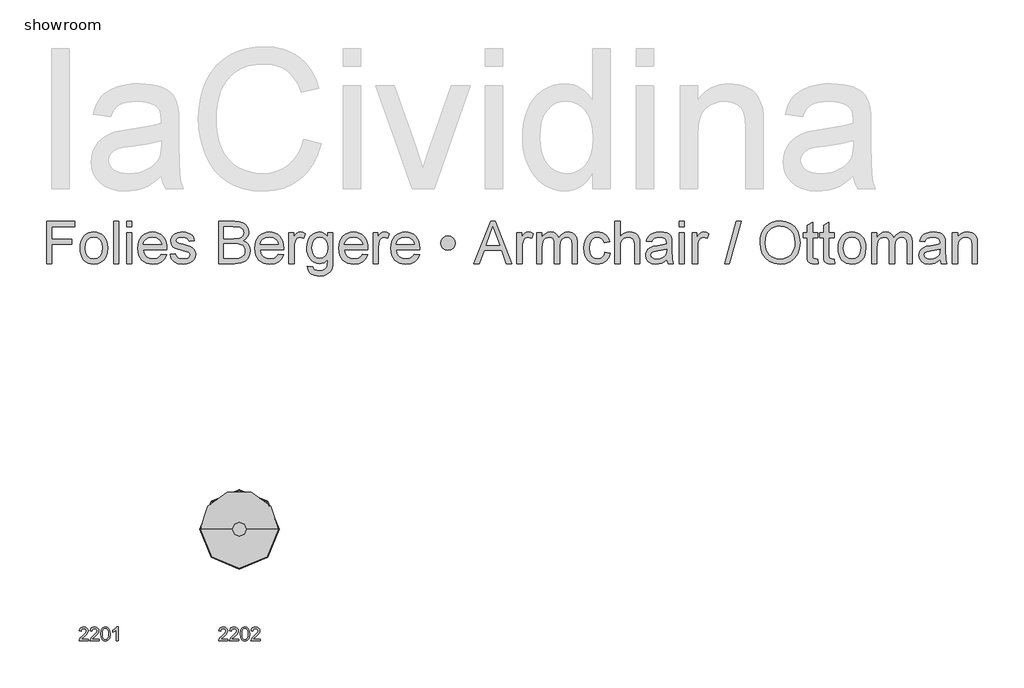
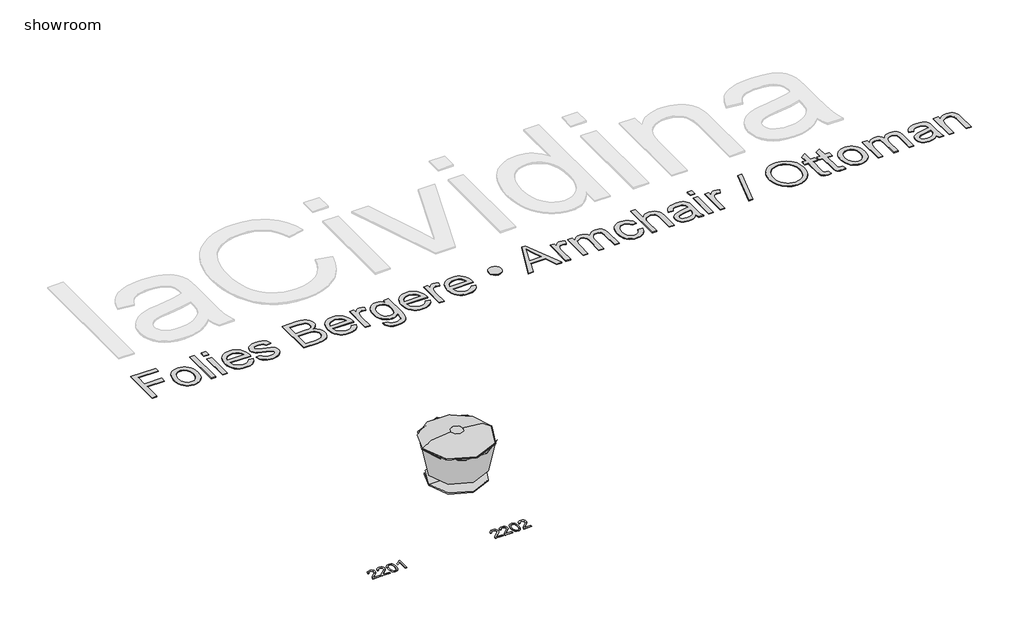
# One storey, part 1 of 2: 3 proxies, 1 furniture element.
"""IFC4 building model written with IfcOpenShell, lengths in millimetres."""

from ifc_helpers import new_model, si_unit, origin, origin_with_axes, place, context, project, spatial, polyline, outline, extrude, transform, mapped, element, save
from components import furniture_13e24988

model = new_model("IFC4")

# Units and contexts
model_context = context("Model", 3, world=origin())
ifc_project = project(units=[si_unit("LENGTHUNIT", "METRE", prefix="MILLI")], contexts=[model_context])

# Site, building, storey
site = spatial("IfcSite", under=ifc_project)
building = spatial("IfcBuilding", under=site)
storey = spatial("IfcBuildingStorey", under=building, Name="showroom", Elevation=0.0)

# Proxies
placement = place(None, origin())
element("IfcBuildingElementProxy", 1, Name="100mm Arial", ObjectType="100mm Arial", at=placement, inside=storey, context=model_context, shape_type="SweptSolid", body=[
    extrude(outline(polyline([(-1690.8450326, 1467.6591194), (-1690.8450326, 1455.1020807), (-1756.7694861, 1455.1020807), (-1755.4205855, 1463.7595703), (-1747.7931654, 1477.0891613), (-1732.0723415, 1491.6450255), (-1710.3918292, 1512.5652483), (-1704.9717012, 1526.7900188), (-1710.0852609, 1538.3047252), (-1723.4393773, 1543.0013521), (-1737.3575795, 1538.4150898), (-1742.6428175, 1525.7354237), (-1755.1998563, 1527.3050536), (-1752.1556327, 1539.4512908), (-1745.5736107, 1548.3233782), (-1735.7971467, 1553.7496377), (-1723.1695972, 1555.5583908), (-1710.4500772, 1553.5473026), (-1700.6920073, 1547.5140379), (-1694.4839986, 1538.500929), (-1692.4146624, 1527.5503083), (-1694.6464799, 1515.6431943), (-1702.0654334, 1503.3314102), (-1720.054863, 1486.1267956), (-1734.5003627, 1474.0480034), (-1740.1657454, 1467.6591194), (-1690.8450326, 1467.6591194)])), origin_with_axes(), (0.0, 0.0, 1.0), 2.0),
    extrude(outline(polyline([(-1613.9331701, 1467.6591194), (-1613.9331701, 1455.1020807), (-1679.8576236, 1455.1020807), (-1678.508723, 1463.7595703), (-1670.881303, 1477.0891613), (-1655.160479, 1491.6450255), (-1633.4799668, 1512.5652483), (-1628.0598387, 1526.7900188), (-1633.1733985, 1538.3047252), (-1646.5275149, 1543.0013521), (-1660.445717, 1538.4150898), (-1665.730955, 1525.7354237), (-1678.2879938, 1527.3050536), (-1675.2437703, 1539.4512908), (-1668.6617483, 1548.3233782), (-1658.8852842, 1553.7496377), (-1646.2577348, 1555.5583908), (-1633.5382148, 1553.5473026), (-1623.7801448, 1547.5140379), (-1617.5721362, 1538.500929), (-1615.5028, 1527.5503083), (-1617.7346174, 1515.6431943), (-1625.153571, 1503.3314102), (-1643.1430005, 1486.1267956), (-1657.5885002, 1474.0480034), (-1663.2538829, 1467.6591194), (-1613.9331701, 1467.6591194)])), origin_with_axes(), (0.0, 0.0, 1.0), 2.0),
    extrude(outline(polyline([(-1601.3761313, 1504.5208954), (-1597.6850487, 1533.4241574), (-1586.7221652, 1550.0892118), (-1568.4139046, 1555.5583908), (-1553.7476757, 1552.3210293), (-1543.6186581, 1542.9890893), (-1537.7325462, 1528.1266567), (-1535.4516778, 1504.5208954), (-1539.1059723, 1475.7402606), (-1550.0320675, 1459.038418), (-1558.2634272, 1454.9089426), (-1568.4139046, 1453.5324508), (-1581.4614527, 1455.9236838), (-1591.3697411, 1463.0973827), (-1598.8745338, 1480.0873995), (-1601.3761313, 1504.5208954)]), holes=[polyline([(-1588.8190926, 1504.5454208), (-1587.3475646, 1484.7932234), (-1582.9329806, 1473.3612904), (-1576.3601557, 1467.9074398), (-1568.4139046, 1466.0894896), (-1560.4676535, 1467.9135712), (-1553.8948285, 1473.3858158), (-1549.4802446, 1484.8238802), (-1548.0087166, 1504.5454208), (-1549.4311936, 1523.8530942), (-1553.6986248, 1535.373932), (-1560.259187, 1541.094497), (-1568.5610574, 1543.0013521), (-1576.4214693, 1541.3213576), (-1582.7367769, 1536.2813743), (-1587.2985137, 1524.0431666), (-1588.8190926, 1504.5454208)])]), origin_with_axes(), (0.0, 0.0, 1.0), 2.0),
    extrude(outline(polyline([(-1477.3753735, 1455.1020807), (-1489.9324123, 1455.1020807), (-1489.9324123, 1533.3873692), (-1501.8272634, 1524.9138206), (-1515.0464898, 1518.5739876), (-1515.0464898, 1530.4443133), (-1496.6401273, 1542.1920117), (-1485.4687774, 1555.5583908), (-1477.3753735, 1555.5583908), (-1477.3753735, 1455.1020807)])), origin_with_axes(), (0.0, 0.0, 1.0), 2.0),
])
element("IfcBuildingElementProxy", 2, Name="100mm Arial", ObjectType="100mm Arial", at=placement, inside=storey, context=model_context, shape_type="SweptSolid", body=[
    extrude(outline(polyline([(-690.8450326, 1467.6591194), (-690.8450326, 1455.1020807), (-756.7694861, 1455.1020807), (-755.4205855, 1463.7595703), (-747.7931654, 1477.0891613), (-732.0723415, 1491.6450255), (-710.3918292, 1512.5652483), (-704.9717012, 1526.7900188), (-710.0852609, 1538.3047252), (-723.4393773, 1543.0013521), (-737.3575795, 1538.4150898), (-742.6428175, 1525.7354237), (-755.1998563, 1527.3050536), (-752.1556327, 1539.4512908), (-745.5736107, 1548.3233782), (-735.7971467, 1553.7496377), (-723.1695972, 1555.5583908), (-710.4500772, 1553.5473026), (-700.6920073, 1547.5140379), (-694.4839986, 1538.500929), (-692.4146624, 1527.5503083), (-694.6464799, 1515.6431943), (-702.0654334, 1503.3314102), (-720.054863, 1486.1267956), (-734.5003627, 1474.0480034), (-740.1657454, 1467.6591194), (-690.8450326, 1467.6591194)])), origin_with_axes(), (0.0, 0.0, 1.0), 2.0),
    extrude(outline(polyline([(-613.9331701, 1467.6591194), (-613.9331701, 1455.1020807), (-679.8576236, 1455.1020807), (-678.508723, 1463.7595703), (-670.881303, 1477.0891613), (-655.160479, 1491.6450255), (-633.4799668, 1512.5652483), (-628.0598387, 1526.7900188), (-633.1733985, 1538.3047252), (-646.5275149, 1543.0013521), (-660.445717, 1538.4150898), (-665.730955, 1525.7354237), (-678.2879938, 1527.3050536), (-675.2437703, 1539.4512908), (-668.6617483, 1548.3233782), (-658.8852842, 1553.7496377), (-646.2577348, 1555.5583908), (-633.5382148, 1553.5473026), (-623.7801448, 1547.5140379), (-617.5721362, 1538.500929), (-615.5028, 1527.5503083), (-617.7346174, 1515.6431943), (-625.153571, 1503.3314102), (-643.1430005, 1486.1267956), (-657.5885002, 1474.0480034), (-663.2538829, 1467.6591194), (-613.9331701, 1467.6591194)])), origin_with_axes(), (0.0, 0.0, 1.0), 2.0),
    extrude(outline(polyline([(-601.3761313, 1504.5208954), (-597.6850487, 1533.4241574), (-586.7221652, 1550.0892118), (-568.4139046, 1555.5583908), (-553.7476757, 1552.3210293), (-543.6186581, 1542.9890893), (-537.7325462, 1528.1266567), (-535.4516778, 1504.5208954), (-539.1059723, 1475.7402606), (-550.0320675, 1459.038418), (-558.2634272, 1454.9089426), (-568.4139046, 1453.5324508), (-581.4614527, 1455.9236838), (-591.3697411, 1463.0973827), (-598.8745338, 1480.0873995), (-601.3761313, 1504.5208954)]), holes=[polyline([(-588.8190926, 1504.5454208), (-587.3475646, 1484.7932234), (-582.9329806, 1473.3612904), (-576.3601557, 1467.9074398), (-568.4139046, 1466.0894896), (-560.4676535, 1467.9135712), (-553.8948285, 1473.3858158), (-549.4802446, 1484.8238802), (-548.0087166, 1504.5454208), (-549.4311936, 1523.8530942), (-553.6986248, 1535.373932), (-560.259187, 1541.094497), (-568.5610574, 1543.0013521), (-576.4214693, 1541.3213576), (-582.7367769, 1536.2813743), (-587.2985137, 1524.0431666), (-588.8190926, 1504.5454208)])]), origin_with_axes(), (0.0, 0.0, 1.0), 2.0),
    extrude(outline(polyline([(-460.1094452, 1467.6591194), (-460.1094452, 1455.1020807), (-526.0338987, 1455.1020807), (-524.6849981, 1463.7595703), (-517.057578, 1477.0891613), (-501.3367541, 1491.6450255), (-479.6562419, 1512.5652483), (-474.2361138, 1526.7900188), (-479.3496735, 1538.3047252), (-492.70379, 1543.0013521), (-506.6219921, 1538.4150898), (-511.9072301, 1525.7354237), (-524.4642689, 1527.3050536), (-521.4200454, 1539.4512908), (-514.8380233, 1548.3233782), (-505.0615593, 1553.7496377), (-492.4340098, 1555.5583908), (-479.7144899, 1553.5473026), (-469.9564199, 1547.5140379), (-463.7484113, 1538.500929), (-461.679075, 1527.5503083), (-463.9108925, 1515.6431943), (-471.329846, 1503.3314102), (-489.3192756, 1486.1267956), (-503.7647753, 1474.0480034), (-509.430158, 1467.6591194), (-460.1094452, 1467.6591194)])), origin_with_axes(), (0.0, 0.0, 1.0), 2.0),
])
element("IfcBuildingElementProxy", 3, Name="300mm Arial", ObjectType="300mm Arial", at=placement, inside=storey, context=model_context, shape_type="SweptSolid", body=[
    extrude(outline(polyline([(-1990.3620976, 4160.1020807), (-1990.3620976, 4461.4710111), (-1787.8798475, 4461.4710111), (-1787.8798475, 4423.7998948), (-1952.6909813, 4423.7998948), (-1952.6909813, 4334.3309936), (-1811.4242952, 4334.3309936), (-1811.4242952, 4296.6598773), (-1952.6909813, 4296.6598773), (-1952.6909813, 4160.1020807), (-1990.3620976, 4160.1020807)])), origin_with_axes(), (0.0, 0.0, 1.0), 5.0),
    extrude(outline(polyline([(-1750.2087312, 4270.7609848), (-1748.1715846, 4299.4235908), (-1742.060145, 4324.1222682), (-1731.8744122, 4344.8570172), (-1717.6143864, 4361.6278376), (-1703.2577915, 4372.3469993), (-1687.4112746, 4380.0035433), (-1670.0748356, 4384.5974697), (-1651.2484745, 4386.1287785), (-1630.465441, 4384.2640766), (-1611.6735688, 4378.6699711), (-1594.872858, 4369.3464617), (-1580.0633084, 4356.2935487), (-1567.9760856, 4339.9526903), (-1559.342355, 4320.765345), (-1554.1621167, 4298.7315128), (-1552.4353706, 4273.8511936), (-1555.4887911, 4235.7938012), (-1564.6490528, 4206.8230941), (-1579.6494412, 4185.1272534), (-1600.2232417, 4168.8944604), (-1624.6598033, 4158.7685084), (-1651.2484745, 4155.3931911), (-1672.3350106, 4157.2509952), (-1691.3016267, 4162.8244074), (-1708.1483228, 4172.1134278), (-1722.8750989, 4185.1180563), (-1734.833563, 4201.6175638), (-1743.3753231, 4221.3912211), (-1748.5003792, 4244.4390281), (-1750.2087312, 4270.7609848)]), holes=[polyline([(-1712.5376149, 4270.8345612), (-1708.1782132, 4236.7410973), (-1695.1000083, 4212.4516886), (-1675.4183216, 4197.9111527), (-1651.2484745, 4193.0643074), (-1627.188992, 4197.9387439), (-1607.5440935, 4212.5620532), (-1594.4658885, 4237.1733587), (-1590.1064869, 4272.0117836), (-1594.4934797, 4305.1119661), (-1607.6544581, 4329.0702811), (-1627.3269477, 4343.6108169), (-1651.2484745, 4348.4576622), (-1675.4183216, 4343.629211), (-1695.1000083, 4329.1438575), (-1708.1782132, 4304.909631), (-1712.5376149, 4270.8345612)])]), origin_with_axes(), (0.0, 0.0, 1.0), 5.0),
    extrude(outline(polyline([(-1510.0553647, 4160.1020807), (-1510.0553647, 4461.4710111), (-1472.3842484, 4461.4710111), (-1472.3842484, 4160.1020807), (-1510.0553647, 4160.1020807)])), origin_with_axes(), (0.0, 0.0, 1.0), 5.0),
    extrude(outline(polyline([(-1415.877574, 4423.7998948), (-1415.877574, 4461.4710111), (-1378.2064577, 4461.4710111), (-1378.2064577, 4423.7998948), (-1415.877574, 4423.7998948)])), origin_with_axes(), (0.0, 0.0, 1.0), 5.0),
    extrude(outline(polyline([(-1415.877574, 4160.1020807), (-1415.877574, 4381.419889), (-1378.2064577, 4381.419889), (-1378.2064577, 4160.1020807), (-1415.877574, 4160.1020807)])), origin_with_axes(), (0.0, 0.0, 1.0), 5.0),
    extrude(outline(polyline([(-1166.7478868, 4226.0265342), (-1129.8125345, 4221.3176447), (-1143.1206657, 4193.4873717), (-1164.3566539, 4172.6836449), (-1193.0422524, 4159.7158046), (-1228.6992148, 4155.3931911), (-1252.0735171, 4157.257893), (-1272.9002365, 4162.8519986), (-1291.1793732, 4172.1755079), (-1306.910927, 4185.2284209), (-1319.5614691, 4201.6474542), (-1328.5975706, 4221.0693243), (-1334.0192315, 4243.4940312), (-1335.8264518, 4268.9215748), (-1334.0008374, 4295.2113419), (-1328.5239942, 4318.3833091), (-1319.3959222, 4338.4374764), (-1306.6166214, 4355.3738437), (-1290.9264543, 4368.8291277), (-1273.0657834, 4378.4400448), (-1253.0346088, 4384.2065951), (-1230.8329304, 4386.1287785), (-1209.3463226, 4384.2111936), (-1189.9152555, 4378.4584389), (-1172.539729, 4368.8705144), (-1157.2197432, 4355.4474201), (-1144.7140546, 4338.547841), (-1135.7814199, 4318.5304619), (-1130.4218391, 4295.3952829), (-1128.6353121, 4269.142304), (-1128.8560413, 4258.988761), (-1298.1553355, 4258.988761), (-1291.6346271, 4230.790606), (-1276.487086, 4210.0604556), (-1254.6256984, 4197.3133445), (-1227.9634508, 4193.0643074), (-1207.9138821, 4195.0324761), (-1191.0280985, 4200.9369821), (-1177.3061001, 4211.1457075), (-1166.7478868, 4226.0265342)]), holes=[polyline([(-1298.1553355, 4296.6598773), (-1166.3064284, 4296.6598773), (-1171.4015941, 4316.5622932), (-1181.3895902, 4330.7993264), (-1203.3521454, 4344.0430783), (-1230.9800832, 4348.4576622), (-1256.3731379, 4344.9351921), (-1277.3700028, 4334.3677818), (-1291.9657209, 4317.8958655), (-1298.1553355, 4296.6598773)])]), origin_with_axes(), (0.0, 0.0, 1.0), 5.0),
    extrude(outline(polyline([(-1105.0908644, 4226.0265342), (-1067.4197481, 4230.7354237), (-1061.4784539, 4214.6221924), (-1049.9821416, 4202.7763921), (-1032.8572347, 4195.4923286), (-1010.0301569, 4193.0643074), (-987.4789906, 4195.2899935), (-971.6232766, 4201.9670517), (-962.2422857, 4211.6423482), (-959.1152888, 4222.862749), (-962.2606798, 4232.4644691), (-971.696853, 4239.7853208), (-1010.4716153, 4250.5274751), (-1067.1990189, 4268.958363), (-1081.5556138, 4278.2197923), (-1091.9574772, 4290.4794598), (-1098.2758505, 4304.9556163), (-1100.3819749, 4320.8665126), (-1098.6897177, 4335.4622307), (-1093.6129462, 4348.9359088), (-1085.6115128, 4360.7541179), (-1075.14527, 4370.3834291), (-1051.1961521, 4381.5302536), (-1018.7857484, 4386.1287785), (-994.2664134, 4384.2801715), (-972.9476518, 4378.7343504), (-955.8043508, 4370.0339412), (-943.8113978, 4358.7215699), (-935.8651467, 4343.9603048), (-930.8619515, 4324.9132145), (-968.5330678, 4320.204325), (-973.2879426, 4332.0593223), (-982.6965246, 4340.9896577), (-996.8507844, 4346.5906611), (-1015.8426924, 4348.4576622), (-1037.4741537, 4346.6734345), (-1051.8951279, 4341.3207515), (-1060.0069259, 4333.5952296), (-1062.7108586, 4324.6924853), (-1058.2226983, 4313.7296019), (-1044.169606, 4305.4154688), (-1011.7224141, 4297.3956413), (-956.4297502, 4279.6637291), (-941.824835, 4271.1840491), (-930.7515869, 4259.5773722), (-923.7710261, 4244.8069101), (-921.4441724, 4226.8358746), (-924.1756963, 4208.2578338), (-932.3702677, 4190.7834391), (-945.7151871, 4175.7830507), (-963.8977547, 4164.6270292), (-985.8603098, 4157.7016507), (-1010.5451917, 4155.3931911), (-1048.5290077, 4159.8445633), (-1076.248916, 4173.1986797), (-1094.7533804, 4195.3083876), (-1105.0908644, 4226.0265342)])), origin_with_axes(), (0.0, 0.0, 1.0), 5.0),
    extrude(outline(polyline([(-756.6330386, 4160.1020807), (-756.6330386, 4461.4710111), (-641.6331269, 4461.4710111), (-610.0044724, 4459.2545221), (-585.3103935, 4452.605055), (-566.3828648, 4441.357063), (-552.0538611, 4425.3449992), (-543.0315552, 4406.509441), (-540.0241198, 4386.7909661), (-542.5533086, 4368.6451867), (-550.1408747, 4351.5846592), (-562.8420006, 4336.6578472), (-580.7118685, 4324.9132145), (-559.3655157, 4313.7663901), (-543.5925752, 4296.8070301), (-533.8528994, 4275.1571747), (-530.6063408, 4249.9388639), (-532.8228298, 4228.9236049), (-539.4722969, 4209.4350562), (-549.3959137, 4192.8619723), (-561.434852, 4180.5931078), (-576.1777229, 4171.7087576), (-594.2131377, 4165.2892168), (-642.5160437, 4160.1020807), (-756.6330386, 4160.1020807)]), holes=[polyline([(-718.9619223, 4197.773197), (-641.7067033, 4197.773197), (-613.7476717, 4199.244725), (-590.0928594, 4207.4484935), (-574.4210864, 4224.1871242), (-569.8133644, 4236.0145304), (-568.2774571, 4249.5709819), (-570.0800789, 4265.3163313), (-575.4879442, 4278.8543887), (-584.9333144, 4289.4401931), (-598.8484509, 4296.3287835), (-618.5577288, 4300.108771), (-645.3855233, 4301.3687668), (-718.9619223, 4301.3687668), (-718.9619223, 4197.773197)]), polyline([(-718.9619223, 4339.0398831), (-650.1679892, 4339.0398831), (-609.9952753, 4342.2772447), (-595.9329861, 4347.859854), (-585.8254282, 4356.2199723), (-579.7277842, 4367.228841), (-577.6952362, 4380.7577014), (-579.5898284, 4393.8910886), (-585.2736053, 4405.3322187), (-594.4890492, 4414.2625541), (-606.978643, 4419.8635575), (-655.3919135, 4423.7998948), (-718.9619223, 4423.7998948), (-718.9619223, 4339.0398831)])]), origin_with_axes(), (0.0, 0.0, 1.0), 5.0),
    extrude(outline(polyline([(-328.565549, 4226.0265342), (-291.6301967, 4221.3176447), (-304.9383279, 4193.4873717), (-326.1743161, 4172.6836449), (-354.8599146, 4159.7158046), (-390.516877, 4155.3931911), (-413.8911793, 4157.257893), (-434.7178987, 4162.8519986), (-452.9970354, 4172.1755079), (-468.7285892, 4185.2284209), (-481.3791313, 4201.6474542), (-490.4152328, 4221.0693243), (-495.8368937, 4243.4940312), (-497.644114, 4268.9215748), (-495.8184996, 4295.2113419), (-490.3416564, 4318.3833091), (-481.2135844, 4338.4374764), (-468.4342836, 4355.3738437), (-452.7441165, 4368.8291277), (-434.8834456, 4378.4400448), (-414.852271, 4384.2065951), (-392.6505926, 4386.1287785), (-371.1639848, 4384.2111936), (-351.7329177, 4378.4584389), (-334.3573912, 4368.8705144), (-319.0374053, 4355.4474201), (-306.5317168, 4338.547841), (-297.5990821, 4318.5304619), (-292.2395013, 4295.3952829), (-290.4529743, 4269.142304), (-290.6737035, 4258.988761), (-459.9729977, 4258.988761), (-453.4522893, 4230.790606), (-438.3047482, 4210.0604556), (-416.4433606, 4197.3133445), (-389.781113, 4193.0643074), (-369.7315443, 4195.0324761), (-352.8457607, 4200.9369821), (-339.1237623, 4211.1457075), (-328.565549, 4226.0265342)]), holes=[polyline([(-459.9729977, 4296.6598773), (-328.1240906, 4296.6598773), (-333.2192563, 4316.5622932), (-343.2072524, 4330.7993264), (-365.1698075, 4344.0430783), (-392.7977454, 4348.4576622), (-418.1908001, 4344.9351921), (-439.187665, 4334.3677818), (-453.7833831, 4317.8958655), (-459.9729977, 4296.6598773)])]), origin_with_axes(), (0.0, 0.0, 1.0), 5.0),
    extrude(outline(polyline([(-252.781858, 4160.1020807), (-252.781858, 4381.419889), (-219.8196312, 4381.419889), (-219.8196312, 4348.6783914), (-207.6427372, 4367.6611024), (-196.4223364, 4378.844715), (-185.1651473, 4384.3077626), (-172.8778887, 4386.1287785), (-154.1159069, 4383.2225107), (-135.0596196, 4374.5037075), (-147.6411838, 4340.7321403), (-160.8849356, 4346.5262817), (-174.1286874, 4348.4576622), (-185.3766794, 4346.5998581), (-195.429055, 4341.0264459), (-203.55005, 4332.1604898), (-209.0039006, 4320.4250542), (-213.5840314, 4299.382204), (-215.1107417, 4276.4263675), (-215.1107417, 4160.1020807), (-252.781858, 4160.1020807)])), origin_with_axes(), (0.0, 0.0, 1.0), 5.0),
    extrude(outline(polyline([(-120.9329509, 4141.2665225), (-83.2618346, 4136.557633), (-79.1047681, 4124.7854091), (-71.0481524, 4116.6920052), (-55.2108325, 4110.4012231), (-34.4806821, 4108.3042958), (-12.3709742, 4110.6771346), (4.073351, 4117.7956512), (15.4776929, 4129.1999931), (22.4674508, 4144.4303077), (25.0426247, 4188.3554179), (12.5070458, 4175.9945829), (-1.4816671, 4167.165415), (-16.9235139, 4161.8679142), (-33.8184945, 4160.1020807), (-54.4727693, 4162.1576213), (-72.6576361, 4168.3242433), (-88.3730951, 4178.6019465), (-101.6191462, 4192.990731), (-112.1290749, 4210.2535937), (-119.6361669, 4229.1535312), (-124.1404221, 4249.6905435), (-125.6418405, 4271.8646308), (-122.9471049, 4302.2792748), (-114.862898, 4330.2475034), (-101.6743285, 4353.948301), (-83.6665048, 4371.5606515), (-61.4556294, 4382.4867468), (-35.6579045, 4386.1287785), (-18.0409554, 4384.0686393), (-2.0518842, 4377.8882218), (12.3093092, 4367.587526), (25.0426247, 4353.1665517), (25.0426247, 4381.419889), (62.713741, 4381.419889), (62.713741, 4190.3419807), (60.1385671, 4146.2237324), (52.4130452, 4117.1702518), (39.104914, 4097.9024323), (19.7819122, 4083.1411673), (-5.1328959, 4073.7601764), (-35.2164461, 4070.6331794), (-70.2664032, 4075.0385663), (-97.8667498, 4088.254727), (-108.2617155, 4098.1760446), (-115.5710709, 4110.3184497), (-119.794816, 4124.6819423), (-120.9329509, 4141.2665225)]), holes=[polyline([(-87.9707242, 4274.4398048), (-83.9516134, 4239.8864884), (-71.894281, 4216.1305085), (-53.7668957, 4202.3625249), (-31.5376261, 4197.773197), (-9.4739035, 4202.3349337), (8.7454524, 4216.0201439), (20.9683316, 4239.4726211), (25.0426247, 4273.3361588), (20.84877, 4305.9948829), (8.2672058, 4329.5117395), (-10.2188645, 4343.7211815), (-32.1262373, 4348.4576622), (-53.638137, 4343.7947579), (-71.6735518, 4329.806045), (-83.8964311, 4306.6386764), (-87.9707242, 4274.4398048)])]), origin_with_axes(), (0.0, 0.0, 1.0), 5.0),
    extrude(outline(polyline([(274.1723119, 4226.0265342), (311.1076642, 4221.3176447), (297.799533, 4193.4873717), (276.5635448, 4172.6836449), (247.8779463, 4159.7158046), (212.2209839, 4155.3931911), (188.8466816, 4157.257893), (168.0199622, 4162.8519986), (149.7408255, 4172.1755079), (134.0092717, 4185.2284209), (121.3587296, 4201.6474542), (112.3226281, 4221.0693243), (106.9009672, 4243.4940312), (105.0937469, 4268.9215748), (106.9193613, 4295.2113419), (112.3962045, 4318.3833091), (121.5242765, 4338.4374764), (134.3035773, 4355.3738437), (149.9937444, 4368.8291277), (167.8544153, 4378.4400448), (187.8855899, 4384.2065951), (210.0872683, 4386.1287785), (231.5738761, 4384.2111936), (251.0049432, 4378.4584389), (268.3804697, 4368.8705144), (283.7004556, 4355.4474201), (296.2061441, 4338.547841), (305.1387788, 4318.5304619), (310.4983596, 4295.3952829), (312.2848866, 4269.142304), (312.0641574, 4258.988761), (142.7648632, 4258.988761), (149.2855716, 4230.790606), (164.4331127, 4210.0604556), (186.2945003, 4197.3133445), (212.9567479, 4193.0643074), (233.0063166, 4195.0324761), (249.8921002, 4200.9369821), (263.6140986, 4211.1457075), (274.1723119, 4226.0265342)]), holes=[polyline([(142.7648632, 4296.6598773), (274.6137703, 4296.6598773), (269.5186046, 4316.5622932), (259.5306085, 4330.7993264), (237.5680534, 4344.0430783), (209.9401155, 4348.4576622), (184.5470608, 4344.9351921), (163.5501959, 4334.3677818), (148.9544778, 4317.8958655), (142.7648632, 4296.6598773)])]), origin_with_axes(), (0.0, 0.0, 1.0), 5.0),
    extrude(outline(polyline([(349.9560029, 4160.1020807), (349.9560029, 4381.419889), (382.9182296, 4381.419889), (382.9182296, 4348.6783914), (395.0951237, 4367.6611024), (406.3155245, 4378.844715), (417.5727136, 4384.3077626), (429.8599722, 4386.1287785), (448.621954, 4383.2225107), (467.6782413, 4374.5037075), (455.0966771, 4340.7321403), (441.8529253, 4346.5262817), (428.6091735, 4348.4576622), (417.3611814, 4346.5998581), (407.3088059, 4341.0264459), (399.1878109, 4332.1604898), (393.7339603, 4320.4250542), (389.1538295, 4299.382204), (387.6271192, 4276.4263675), (387.6271192, 4160.1020807), (349.9560029, 4160.1020807)])), origin_with_axes(), (0.0, 0.0, 1.0), 5.0),
    extrude(outline(polyline([(646.1745854, 4226.0265342), (683.1099377, 4221.3176447), (669.8018065, 4193.4873717), (648.5658184, 4172.6836449), (619.8802198, 4159.7158046), (584.2232574, 4155.3931911), (560.8489551, 4157.257893), (540.0222357, 4162.8519986), (521.7430991, 4172.1755079), (506.0115452, 4185.2284209), (493.3610031, 4201.6474542), (484.3249016, 4221.0693243), (478.9032407, 4243.4940312), (477.0960204, 4268.9215748), (478.9216348, 4295.2113419), (484.398478, 4318.3833091), (493.52655, 4338.4374764), (506.3058508, 4355.3738437), (521.9960179, 4368.8291277), (539.8566888, 4378.4400448), (559.8878634, 4384.2065951), (582.0895418, 4386.1287785), (603.5761496, 4384.2111936), (623.0072168, 4378.4584389), (640.3827432, 4368.8705144), (655.7027291, 4355.4474201), (668.2084176, 4338.547841), (677.1410523, 4318.5304619), (682.5006332, 4295.3952829), (684.2871601, 4269.142304), (684.0664309, 4258.988761), (514.7671367, 4258.988761), (521.2878451, 4230.790606), (536.4353862, 4210.0604556), (558.2967738, 4197.3133445), (584.9590214, 4193.0643074), (605.0085901, 4195.0324761), (621.8943737, 4200.9369821), (635.6163721, 4211.1457075), (646.1745854, 4226.0265342)]), holes=[polyline([(514.7671367, 4296.6598773), (646.6160438, 4296.6598773), (641.5208782, 4316.5622932), (631.532882, 4330.7993264), (609.5703269, 4344.0430783), (581.942389, 4348.4576622), (556.5493343, 4344.9351921), (535.5524694, 4334.3677818), (520.9567513, 4317.8958655), (514.7671367, 4296.6598773)])]), origin_with_axes(), (0.0, 0.0, 1.0), 5.0),
    extrude(outline(polyline([(834.9716253, 4306.1512328), (838.779204, 4326.0444516), (850.2019399, 4342.7554913), (866.9405707, 4354.0954538), (886.6958338, 4357.8754413), (906.5614616, 4354.0954538), (923.3368806, 4342.7554913), (934.7596165, 4326.0444516), (938.5671952, 4306.1512328), (934.7596165, 4286.285605), (923.3368806, 4269.510186), (906.5614616, 4258.0874501), (886.6958338, 4254.2798714), (866.9405707, 4258.0874501), (850.2019399, 4269.510186), (838.779204, 4286.285605), (834.9716253, 4306.1512328)])), origin_with_axes(), (0.0, 0.0, 1.0), 5.0),
    extrude(outline(polyline([(1072.9912762, 4160.1020807), (1193.2886886, 4461.4710111), (1225.3679986, 4461.4710111), (1345.665411, 4160.1020807), (1305.8605791, 4160.1020807), (1271.353248, 4254.2798714), (1147.2298628, 4254.2798714), (1112.7961081, 4160.1020807), (1072.9912762, 4160.1020807)]), holes=[polyline([(1161.0622258, 4291.9509877), (1257.5944614, 4291.9509877), (1230.4447701, 4366.0424216), (1209.3283436, 4423.7998948), (1190.5663619, 4372.5171447), (1161.0622258, 4291.9509877)])]), origin_with_axes(), (0.0, 0.0, 1.0), 5.0),
    extrude(outline(polyline([(1381.2028118, 4160.1020807), (1381.2028118, 4381.419889), (1414.1650385, 4381.419889), (1414.1650385, 4348.6783914), (1426.3419326, 4367.6611024), (1437.5623334, 4378.844715), (1448.8195225, 4384.3077626), (1461.1067811, 4386.1287785), (1479.8687629, 4383.2225107), (1498.9250502, 4374.5037075), (1486.343486, 4340.7321403), (1473.0997342, 4346.5262817), (1459.8559823, 4348.4576622), (1448.6079903, 4346.5998581), (1438.5556148, 4341.0264459), (1430.4346198, 4332.1604898), (1424.9807692, 4320.4250542), (1420.4006383, 4299.382204), (1418.8739281, 4276.4263675), (1418.8739281, 4160.1020807), (1381.2028118, 4160.1020807)])), origin_with_axes(), (0.0, 0.0, 1.0), 5.0),
    extrude(outline(polyline([(1522.4694979, 4160.1020807), (1522.4694979, 4381.419889), (1560.1406142, 4381.419889), (1560.1406142, 4344.9995714), (1571.4713797, 4361.7290052), (1586.0395067, 4374.8348013), (1603.3483545, 4383.3052842), (1622.9012826, 4386.1287785), (1643.8521622, 4383.2501019), (1660.6459753, 4374.6140721), (1673.1907513, 4360.7909061), (1681.3945198, 4342.3508211), (1695.1257153, 4361.5036775), (1710.7882912, 4375.1842892), (1728.3822477, 4383.3926562), (1747.9075846, 4386.1287785), (1776.2253011, 4381.5762388), (1797.1669837, 4367.9186197), (1810.1072329, 4344.7880393), (1814.4206493, 4311.8166155), (1814.4206493, 4160.1020807), (1776.749533, 4160.1020807), (1776.749533, 4295.6298077), (1773.254654, 4327.0837183), (1768.3434294, 4335.7565363), (1760.5995134, 4342.5715503), (1750.6391084, 4346.9861342), (1739.0784167, 4348.4576622), (1718.670163, 4344.6868718), (1702.0326998, 4333.3745004), (1690.9686488, 4313.747996), (1687.2806317, 4285.0348062), (1687.2806317, 4160.1020807), (1649.6095154, 4160.1020807), (1649.6095154, 4299.8236624), (1647.4298146, 4321.12403), (1640.8907122, 4336.3175564), (1629.3852028, 4345.4226357), (1612.3062811, 4348.4576622), (1597.7933364, 4346.4343112), (1584.4208259, 4340.3642583), (1573.384366, 4330.3946562), (1565.8795733, 4316.6726578), (1561.575354, 4297.6347646), (1560.1406142, 4271.717478), (1560.1406142, 4160.1020807), (1522.4694979, 4160.1020807)])), origin_with_axes(), (0.0, 0.0, 1.0), 5.0),
    extrude(outline(polyline([(2012.1940099, 4240.1532028), (2049.8651262, 4235.4443133), (2039.3620952, 4201.9394606), (2019.6252262, 4176.6199823), (1992.5123231, 4160.6998889), (1959.8811902, 4155.3931911), (1938.7532673, 4157.2440974), (1919.8096438, 4162.7968163), (1903.0503197, 4172.0513477), (1888.4752949, 4185.0076917), (1876.6777792, 4201.4221265), (1868.2509822, 4221.0509302), (1863.1949041, 4243.8941029), (1861.5095447, 4269.9516444), (1864.3882213, 4303.4748912), (1873.0242511, 4332.5283718), (1887.5555899, 4355.9900461), (1908.1201935, 4372.7378739), (1932.7223019, 4382.7810524), (1959.3661554, 4386.1287785), (1991.197145, 4381.5302536), (2016.645382, 4367.7346787), (2034.901526, 4345.477818), (2045.1562367, 4315.4954354), (2007.4851204, 4310.7865459), (2000.6517123, 4327.221674), (1990.0107256, 4339.0030949), (1976.1507714, 4346.0940204), (1959.660461, 4348.4576622), (1935.3158699, 4343.803955), (1915.9928681, 4329.8428332), (1903.3837128, 4305.820139), (1899.180661, 4270.981714), (1903.2917423, 4235.6742395), (1915.6249862, 4211.5687718), (1934.5985001, 4197.6904235), (1958.6303914, 4193.0643074), (1978.1373342, 4195.9521811), (1994.1310039, 4204.6158021), (2005.765272, 4219.2758996), (2012.1940099, 4240.1532028)])), origin_with_axes(), (0.0, 0.0, 1.0), 5.0),
    extrude(outline(polyline([(2082.827353, 4160.1020807), (2082.827353, 4461.4710111), (2120.4984693, 4461.4710111), (2120.4984693, 4350.6649542), (2134.3354308, 4366.1803773), (2149.8738466, 4377.2628224), (2167.1137166, 4383.9122895), (2186.0550408, 4386.1287785), (2208.8085422, 4383.7099544), (2228.3614703, 4376.453482), (2243.7573318, 4364.9295785), (2254.0396335, 4349.708461), (2259.8337749, 4328.7943696), (2261.7651554, 4300.1915444), (2261.7651554, 4160.1020807), (2224.0940391, 4160.1020807), (2224.0940391, 4296.2919953), (2221.0958008, 4319.8732312), (2212.1010861, 4336.0232508), (2197.6065355, 4345.3490593), (2178.1087897, 4348.4576622), (2162.1886964, 4346.3607348), (2147.2434903, 4340.0699527), (2134.8642612, 4330.1923211), (2126.6420986, 4317.3348454), (2122.0343766, 4300.2467267), (2120.4984693, 4277.6771663), (2120.4984693, 4160.1020807), (2082.827353, 4160.1020807)])), origin_with_axes(), (0.0, 0.0, 1.0), 5.0),
    extrude(outline(polyline([(2454.8296265, 4188.3554179), (2436.8309999, 4172.9227682), (2418.2989444, 4162.8244074), (2398.8103957, 4157.2509952), (2377.9422895, 4155.3931911), (2346.4607878, 4159.8629574), (2323.2382368, 4173.2722561), (2308.9184301, 4193.6345245), (2304.1451613, 4218.9631999), (2305.947783, 4234.5797906), (2311.3556484, 4248.7616415), (2319.6973726, 4260.9017474), (2330.3015711, 4270.3931028), (2356.6787102, 4282.7539379), (2389.2730549, 4288.4193206), (2427.7902998, 4294.3790089), (2454.6088973, 4301.3687668), (2454.8296265, 4309.7564763), (2452.2360584, 4326.5686835), (2444.4553542, 4337.5683551), (2427.0545358, 4345.7353354), (2402.8111124, 4348.4576622), (2380.3703107, 4346.6458434), (2364.6985377, 4341.2103869), (2354.0115657, 4331.1580114), (2346.5251671, 4315.4954354), (2308.8540508, 4320.204325), (2315.3931533, 4340.8057167), (2325.1512232, 4356.9925245), (2339.0387685, 4369.3717536), (2357.9662972, 4378.5504094), (2381.1152717, 4384.2341862), (2407.6671547, 4386.1287785), (2433.1337858, 4384.4549154), (2453.3213103, 4379.4333262), (2468.5424279, 4371.8825482), (2479.1098382, 4362.621119), (2486.1179902, 4351.1707919), (2490.6613328, 4337.0533204), (2492.5007428, 4304.0910936), (2492.5007428, 4257.2229274), (2494.4137292, 4191.7767205), (2501.9185219, 4160.1020807), (2464.2474056, 4160.1020807), (2454.8296265, 4188.3554179)]), holes=[polyline([(2454.8296265, 4263.6976505), (2394.0555209, 4252.1461559), (2361.6451171, 4246.0393147), (2346.9666255, 4236.1065009), (2341.8162776, 4221.6119503), (2344.6213778, 4210.4099435), (2353.0366784, 4201.2312877), (2366.8782385, 4195.1060525), (2385.962117, 4193.0643074), (2406.1956267, 4195.3175847), (2424.0746917, 4202.0774163), (2438.5692423, 4212.0378213), (2448.649209, 4223.8928186), (2453.1189752, 4236.1065009), (2454.6088973, 4253.0290727), (2454.8296265, 4263.6976505)])]), origin_with_axes(), (0.0, 0.0, 1.0), 5.0),
    extrude(outline(polyline([(2544.2985277, 4423.7998948), (2544.2985277, 4461.4710111), (2581.969644, 4461.4710111), (2581.969644, 4423.7998948), (2544.2985277, 4423.7998948)])), origin_with_axes(), (0.0, 0.0, 1.0), 5.0),
    extrude(outline(polyline([(2544.2985277, 4160.1020807), (2544.2985277, 4381.419889), (2581.969644, 4381.419889), (2581.969644, 4160.1020807), (2544.2985277, 4160.1020807)])), origin_with_axes(), (0.0, 0.0, 1.0), 5.0),
    extrude(outline(polyline([(2638.4763185, 4160.1020807), (2638.4763185, 4381.419889), (2671.4385452, 4381.419889), (2671.4385452, 4348.6783914), (2683.6154393, 4367.6611024), (2694.8358401, 4378.844715), (2706.0930292, 4384.3077626), (2718.3802878, 4386.1287785), (2737.1422696, 4383.2225107), (2756.1985569, 4374.5037075), (2743.6169927, 4340.7321403), (2730.3732409, 4346.5262817), (2717.129489, 4348.4576622), (2705.881497, 4346.5998581), (2695.8291215, 4341.0264459), (2687.7081265, 4332.1604898), (2682.2542759, 4320.4250542), (2677.6741451, 4299.382204), (2676.1474348, 4276.4263675), (2676.1474348, 4160.1020807), (2638.4763185, 4160.1020807)])), origin_with_axes(), (0.0, 0.0, 1.0), 5.0),
    extrude(outline(polyline([(2869.2119059, 4160.1020807), (2953.9719175, 4461.4710111), (2987.9642139, 4461.4710111), (2903.2042022, 4160.1020807), (2869.2119059, 4160.1020807)])), origin_with_axes(), (0.0, 0.0, 1.0), 5.0),
    extrude(outline(polyline([(3123.4919409, 4306.8134203), (3126.0027355, 4342.1622816), (3133.5351194, 4373.4552438), (3146.0890925, 4400.692307), (3163.6646548, 4423.8734712), (3185.2087441, 4442.3825341), (3209.6682983, 4455.6032933), (3237.0433173, 4463.5357488), (3267.333801, 4466.1799007), (3306.8627214, 4461.2134937), (3342.3081516, 4446.3142729), (3371.7387113, 4422.5307019), (3393.2230198, 4390.9112444), (3406.356407, 4352.9826107), (3410.7342028, 4310.2715111), (3406.1264808, 4266.9901944), (3392.3033148, 4228.5281318), (3370.02806, 4196.853492), (3340.0640715, 4173.9344437), (3304.9221439, 4160.0285043), (3267.1130718, 4155.3931911), (3226.9771462, 4160.5159479), (3191.3293808, 4175.8842183), (3161.9723976, 4200.1092476), (3140.7088183, 4231.8022815), (3127.7961603, 4268.2685843), (3123.4919409, 4306.8134203)]), holes=[polyline([(3161.1630572, 4306.4455384), (3163.0461532, 4281.4709494), (3168.6954411, 4259.3014607), (3178.1109209, 4239.9370721), (3191.2925926, 4223.3777838), (3207.3161528, 4210.1156379), (3225.2572978, 4200.6426765), (3245.1160278, 4194.9588997), (3266.8923426, 4193.0643074), (3289.041138, 4194.9772938), (3309.1343927, 4200.7162529), (3327.1721068, 4210.2811848), (3343.1542802, 4223.6720894), (3356.239383, 4240.5808656), (3365.5858849, 4260.6994123), (3371.1937861, 4284.0277293), (3373.0630864, 4310.5658167), (3369.8625131, 4343.9143196), (3360.260793, 4372.7378739), (3344.5062466, 4396.3099127), (3322.8471941, 4413.9038691), (3296.7183754, 4424.8575556), (3267.5545302, 4428.5087844), (3246.5346727, 4426.7498486), (3227.0323285, 4421.4730412), (3209.0474974, 4412.6783622), (3192.5801796, 4400.3658117), (3178.8351886, 4383.9421799), (3169.0173378, 4362.8142571), (3163.1266274, 4336.9820432), (3161.1630572, 4306.4455384)])]), origin_with_axes(), (0.0, 0.0, 1.0), 5.0),
    extrude(outline(polyline([(3537.8742203, 4191.5192031), (3542.5831098, 4158.9984347), (3514.403349, 4155.3931911), (3496.3219489, 4156.9566896), (3482.8390738, 4161.6471851), (3473.3109301, 4168.8760663), (3467.0937244, 4178.054722), (3463.6724219, 4193.8184655), (3462.5319877, 4220.8026099), (3462.5319877, 4343.7487727), (3434.2786504, 4343.7487727), (3434.2786504, 4381.419889), (3462.5319877, 4381.419889), (3462.5319877, 4435.2042367), (3500.203104, 4457.3507328), (3500.203104, 4381.419889), (3537.8742203, 4381.419889), (3537.8742203, 4343.7487727), (3500.203104, 4343.7487727), (3500.203104, 4221.9062559), (3502.1896668, 4202.4820865), (3508.6276017, 4195.6026932), (3521.4666833, 4193.0643074), (3537.8742203, 4191.5192031)])), origin_with_axes(), (0.0, 0.0, 1.0), 5.0),
    extrude(outline(polyline([(3655.5964587, 4191.5192031), (3660.3053483, 4158.9984347), (3632.1255875, 4155.3931911), (3614.0441874, 4156.9566896), (3600.5613123, 4161.6471851), (3591.0331686, 4168.8760663), (3584.8159629, 4178.054722), (3581.3946603, 4193.8184655), (3580.2542261, 4220.8026099), (3580.2542261, 4343.7487727), (3552.0008889, 4343.7487727), (3552.0008889, 4381.419889), (3580.2542261, 4381.419889), (3580.2542261, 4435.2042367), (3617.9253424, 4457.3507328), (3617.9253424, 4381.419889), (3655.5964587, 4381.419889), (3655.5964587, 4343.7487727), (3617.9253424, 4343.7487727), (3617.9253424, 4221.9062559), (3619.9119052, 4202.4820865), (3626.3498401, 4195.6026932), (3639.1889218, 4193.0643074), (3655.5964587, 4191.5192031)])), origin_with_axes(), (0.0, 0.0, 1.0), 5.0),
    extrude(outline(polyline([(3683.849796, 4270.7609848), (3685.8869425, 4299.4235908), (3691.9983822, 4324.1222682), (3702.1841149, 4344.8570172), (3716.4441407, 4361.6278376), (3730.8007356, 4372.3469993), (3746.6472525, 4380.0035433), (3763.9836916, 4384.5974697), (3782.8100527, 4386.1287785), (3803.5930861, 4384.2640766), (3822.3849583, 4378.6699711), (3839.1856692, 4369.3464617), (3853.9952187, 4356.2935487), (3866.0824415, 4339.9526903), (3874.7161721, 4320.765345), (3879.8964105, 4298.7315128), (3881.6231566, 4273.8511936), (3878.569736, 4235.7938012), (3869.4094743, 4206.8230941), (3854.409086, 4185.1272534), (3833.8352854, 4168.8944604), (3809.3987239, 4158.7685084), (3782.8100527, 4155.3931911), (3761.7235166, 4157.2509952), (3742.7569004, 4162.8244074), (3725.9102043, 4172.1134278), (3711.1834282, 4185.1180563), (3699.2249641, 4201.6175638), (3690.683204, 4221.3912211), (3685.558148, 4244.4390281), (3683.849796, 4270.7609848)]), holes=[polyline([(3721.5209123, 4270.8345612), (3725.8803139, 4236.7410973), (3738.9585188, 4212.4516886), (3758.6402056, 4197.9111527), (3782.8100527, 4193.0643074), (3806.8695352, 4197.9387439), (3826.5144337, 4212.5620532), (3839.5926386, 4237.1733587), (3843.9520403, 4272.0117836), (3839.5650475, 4305.1119661), (3826.4040691, 4329.0702811), (3806.7315794, 4343.6108169), (3782.8100527, 4348.4576622), (3758.6402056, 4343.629211), (3738.9585188, 4329.1438575), (3725.8803139, 4304.909631), (3721.5209123, 4270.8345612)])]), origin_with_axes(), (0.0, 0.0, 1.0), 5.0),
    extrude(outline(polyline([(3924.0031624, 4160.1020807), (3924.0031624, 4381.419889), (3961.6742787, 4381.419889), (3961.6742787, 4344.9995714), (3973.0050442, 4361.7290052), (3987.5731712, 4374.8348013), (4004.8820191, 4383.3052842), (4024.4349471, 4386.1287785), (4045.3858267, 4383.2501019), (4062.1796398, 4374.6140721), (4074.7244158, 4360.7909061), (4082.9281843, 4342.3508211), (4096.6593798, 4361.5036775), (4112.3219558, 4375.1842892), (4129.9159122, 4383.3926562), (4149.4412491, 4386.1287785), (4177.7589656, 4381.5762388), (4198.7006482, 4367.9186197), (4211.6408974, 4344.7880393), (4215.9543138, 4311.8166155), (4215.9543138, 4160.1020807), (4178.2831975, 4160.1020807), (4178.2831975, 4295.6298077), (4174.7883185, 4327.0837183), (4169.8770939, 4335.7565363), (4162.1331779, 4342.5715503), (4152.1727729, 4346.9861342), (4140.6120812, 4348.4576622), (4120.2038275, 4344.6868718), (4103.5663643, 4333.3745004), (4092.5023133, 4313.747996), (4088.8142963, 4285.0348062), (4088.8142963, 4160.1020807), (4051.14318, 4160.1020807), (4051.14318, 4299.8236624), (4048.9634791, 4321.12403), (4042.4243767, 4336.3175564), (4030.9188673, 4345.4226357), (4013.8399456, 4348.4576622), (3999.3270009, 4346.4343112), (3985.9544904, 4340.3642583), (3974.9180306, 4330.3946562), (3967.4132379, 4316.6726578), (3963.1090185, 4297.6347646), (3961.6742787, 4271.717478), (3961.6742787, 4160.1020807), (3924.0031624, 4160.1020807)])), origin_with_axes(), (0.0, 0.0, 1.0), 5.0),
    extrude(outline(polyline([(4413.7276744, 4188.3554179), (4395.7290478, 4172.9227682), (4377.1969923, 4162.8244074), (4357.7084436, 4157.2509952), (4336.8403374, 4155.3931911), (4305.3588357, 4159.8629574), (4282.1362847, 4173.2722561), (4267.8164781, 4193.6345245), (4263.0432092, 4218.9631999), (4264.845831, 4234.5797906), (4270.2536963, 4248.7616415), (4278.5954205, 4260.9017474), (4289.199619, 4270.3931028), (4315.5767581, 4282.7539379), (4348.1711029, 4288.4193206), (4386.6883478, 4294.3790089), (4413.5069452, 4301.3687668), (4413.7276744, 4309.7564763), (4411.1341063, 4326.5686835), (4403.3534021, 4337.5683551), (4385.9525838, 4345.7353354), (4361.7091603, 4348.4576622), (4339.2683586, 4346.6458434), (4323.5965856, 4341.2103869), (4312.9096136, 4331.1580114), (4305.423215, 4315.4954354), (4267.7520987, 4320.204325), (4274.2912012, 4340.8057167), (4284.0492711, 4356.9925245), (4297.9368164, 4369.3717536), (4316.8643451, 4378.5504094), (4340.0133196, 4384.2341862), (4366.5652026, 4386.1287785), (4392.0318337, 4384.4549154), (4412.2193582, 4379.4333262), (4427.4404758, 4371.8825482), (4438.0078861, 4362.621119), (4445.0160381, 4351.1707919), (4449.5593807, 4337.0533204), (4451.3987907, 4304.0910936), (4451.3987907, 4257.2229274), (4453.3117771, 4191.7767205), (4460.8165698, 4160.1020807), (4423.1454535, 4160.1020807), (4413.7276744, 4188.3554179)]), holes=[polyline([(4413.7276744, 4263.6976505), (4352.9535688, 4252.1461559), (4320.543165, 4246.0393147), (4305.8646734, 4236.1065009), (4300.7143255, 4221.6119503), (4303.5194257, 4210.4099435), (4311.9347263, 4201.2312877), (4325.7762864, 4195.1060525), (4344.8601649, 4193.0643074), (4365.0936746, 4195.3175847), (4382.9727396, 4202.0774163), (4397.4672902, 4212.0378213), (4407.5472569, 4223.8928186), (4412.0170231, 4236.1065009), (4413.5069452, 4253.0290727), (4413.7276744, 4263.6976505)])]), origin_with_axes(), (0.0, 0.0, 1.0), 5.0),
    extrude(outline(polyline([(4503.1965756, 4160.1020807), (4503.1965756, 4381.419889), (4540.8676919, 4381.419889), (4540.8676919, 4350.5178014), (4553.9550939, 4366.0976039), (4569.6728522, 4377.2260342), (4588.0209667, 4383.9030924), (4608.9994374, 4386.1287785), (4627.5682811, 4384.3353538), (4644.5736264, 4378.9550796), (4658.7554773, 4370.6593406), (4668.8538381, 4360.1195214), (4680.1478153, 4332.4180072), (4682.1343781, 4295.9976897), (4682.1343781, 4160.1020807), (4644.4632618, 4160.1020807), (4644.4632618, 4290.9209182), (4640.1222542, 4324.2510269), (4634.1165807, 4334.1746437), (4624.781575, 4341.8725745), (4612.8162131, 4346.8113903), (4598.9194708, 4348.4576622), (4576.8557481, 4344.7604482), (4558.0477811, 4333.668806), (4550.5314921, 4324.6143104), (4545.1627142, 4312.2396798), (4540.8676919, 4277.5300135), (4540.8676919, 4160.1020807), (4503.1965756, 4160.1020807)])), origin_with_axes(), (0.0, 0.0, 1.0), 5.0),
])

# Furniture
furniture_shape = furniture_13e24988(model_context)
element("IfcFurniture", 4, ObjectType="folies_bergere_2202 : folies_bergere_2202", at=placement, inside=storey, context=model_context, shape_type="MappedRepresentation", body=[
    mapped(furniture_shape, transform((-607.6546507, 2255.1020807, 0.0), x_axis=(1.0, 0.0, 0.0), y_axis=(0.0, 1.0, 0.0), z_axis=(0.0, 0.0, 1.0))),
])

save(model, "model.ifc")
